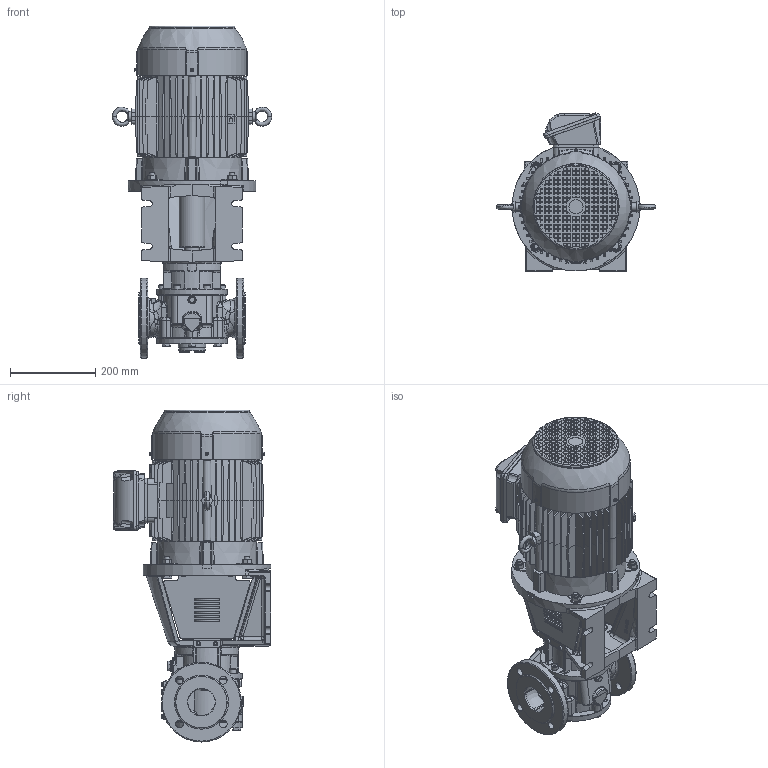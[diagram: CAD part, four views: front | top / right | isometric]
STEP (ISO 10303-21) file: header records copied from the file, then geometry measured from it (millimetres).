
FILE_DESCRIPTION(/* description */ (''),/* implementation_level */ '2;1');
FILE_NAME(/* name */ 'C:\V\JPP\Designs\GEAR PUMPS\PRODUCT ENGINEERING\EUROPE\TG BLOC\TG BLOC_23-65_R5_O_NRV-_132S-STEP.stp',/* time_stamp */ '2021-03-18T14:51:12+01:00',/* author */ ('A77THR'),/* organization */ (''),/* preprocessor_version */ 'ST-DEVELOPER v18.1',/* originating_system */ 'Autodesk Inventor 2020',/* authorisation */ '');
FILE_SCHEMA (('AUTOMOTIVE_DESIGN { 1 0 10303 214 3 1 1 }'));
Products named in the file (1): TG BLOC_23-65_R5_O_NRV-_132S
Bounding box: 374 x 370.15 x 778.7 mm (x, y, z)
Volume: 25369165.4 mm3; surface area: 1520689.4 mm2
Topology: 1 solids, 1 shells, 5118 faces, 13083 edges, 8266 vertices
Faces by surface type: plane 2927, bspline 976, cylinder 666, cone 372, torus 130, sphere 47
Full cylindrical faces by diameter (mm): 4 x1, 4.5 x4, 4.917 x4, 5 x3, 5.459 x14, 6 x17, 6.647 x1, 7 x14, 8.376 x5, 8.5 x2, 8.7 x14, 9.188 x4, 10 x12, 10.5 x1, 11.445 x2, 11.5 x4, 12 x8, 13 x4, 15.011 x3, 15.4 x10, 16 x10, 17.2 x4, 17.9 x3, 18 x11, 19 x3, 21.939 x1, 25.9 x1, 26 x1, 29.4 x1, 30 x1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
Entity records: 215942 total; most frequent: CARTESIAN_POINT 94846, ORIENTED_EDGE 25918, DIRECTION 21280, EDGE_CURVE 12959, VERTEX_POINT 8266, AXIS2_PLACEMENT_3D 7167, LINE 6946, VECTOR 6946
